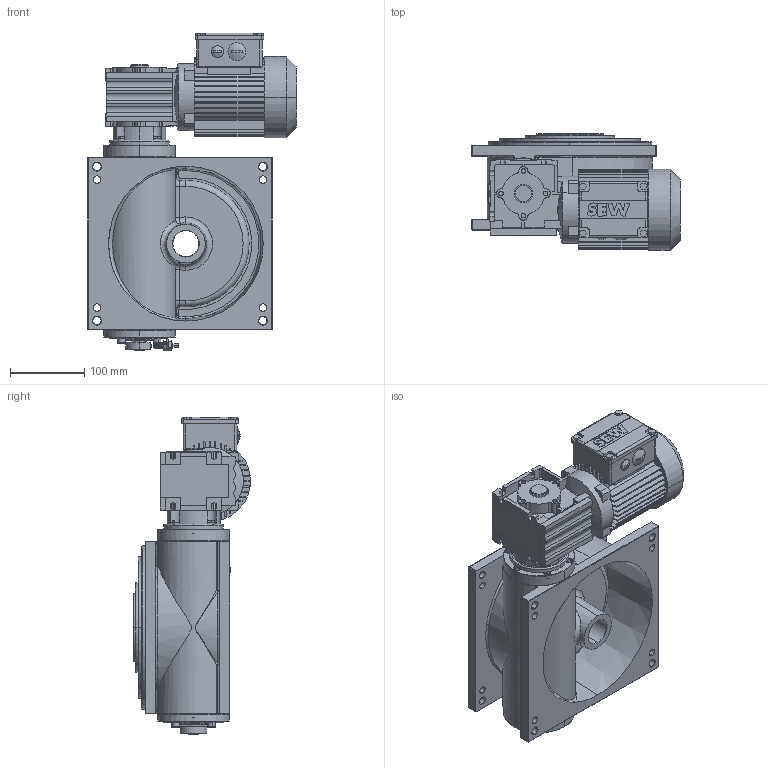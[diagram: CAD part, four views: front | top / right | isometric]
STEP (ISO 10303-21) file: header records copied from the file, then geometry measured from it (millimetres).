
FILE_DESCRIPTION (( 'STEP AP214' ), '1' );
FILE_NAME ('M190_SEW_WAF10DT56L4_D1.STEP', '2021-01-25T15:26:05', ( '' ), ( '' ), 'SwSTEP 2.0', 'SolidWorks 2020', '' );
FILE_SCHEMA (( 'AUTOMOTIVE_DESIGN' ));
Length unit declared in the file: millimetre
Products named in the file (1): M190_SEW_WAF10DT56L4_D1
Bounding box: 280.5 x 157.1 x 427.25 mm (x, y, z)
Surface area: 569997.9 mm2 (no closed solid volume)
Topology: 0 solids, 55 shells, 1480 faces, 4688 edges, 3095 vertices
Faces by surface type: plane 677, cylinder 496, cone 149, bspline 83, torus 63, sphere 12
Entity records: 76289 total; most frequent: CARTESIAN_POINT 19156, DIRECTION 8628, ORIENTED_EDGE 7974, EDGE_CURVE 4653, VERTEX_POINT 3095, AXIS2_PLACEMENT_3D 2994, VECTOR 2640, LINE 2640
